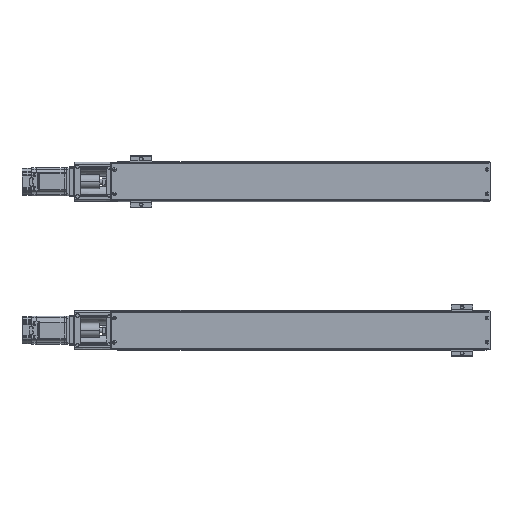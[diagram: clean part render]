
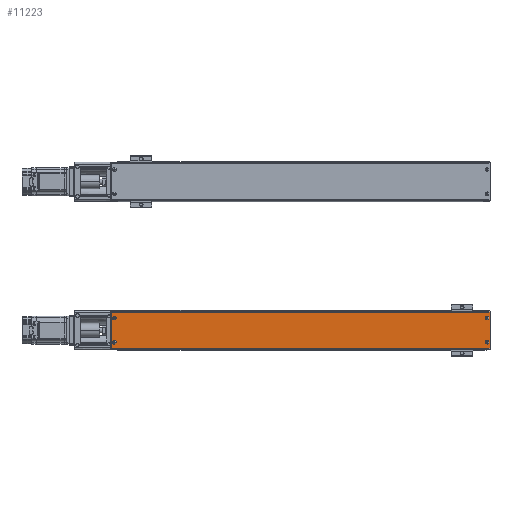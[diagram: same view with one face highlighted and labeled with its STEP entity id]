
A CAD part, top view. The second image highlights one B-rep face of the part: STEP entity #11223.
In plain terms, the highlighted planar face has unit normal (0, 0, 1).
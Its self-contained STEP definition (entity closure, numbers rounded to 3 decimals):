
#11223=ADVANCED_FACE('',(#23324),#23325,.T.);
#23324=FACE_OUTER_BOUND('',#44710,.T.);
#23325=PLANE('',#44711);
#44710=EDGE_LOOP('',(#77880,#77881,#77882,#77883));
#44711=AXIS2_PLACEMENT_3D('',#77884,#77885,#77886);
#77880=ORIENTED_EDGE('',*,*,#100890,.F.);
#77881=ORIENTED_EDGE('',*,*,#102073,.T.);
#77882=ORIENTED_EDGE('',*,*,#102484,.F.);
#77883=ORIENTED_EDGE('',*,*,#98968,.T.);
#77884=CARTESIAN_POINT('',(50.12,-1045.19,-6.33));
#77885=DIRECTION('',(0.0,-0.0,1.0));
#77886=DIRECTION('',(1.0,0.,0.0));
#98968=EDGE_CURVE('',#119065,#119063,#119066,.T.);
#100890=EDGE_CURVE('',#121582,#119063,#121584,.T.);
#102073=EDGE_CURVE('',#121582,#123007,#123009,.T.);
#102484=EDGE_CURVE('',#119065,#123007,#123484,.T.);
#119063=VERTEX_POINT('',#144565);
#119065=VERTEX_POINT('',#144567);
#119066=LINE('',#144568,#144569);
#121582=VERTEX_POINT('',#147983);
#121584=LINE('',#147985,#147986);
#123007=VERTEX_POINT('',#149830);
#123009=LINE('',#149832,#149833);
#123484=LINE('',#150442,#150443);
#144565=CARTESIAN_POINT('',(431.62,-1008.69,-6.33));
#144567=CARTESIAN_POINT('',(431.62,-1081.69,-6.33));
#144568=CARTESIAN_POINT('',(431.62,-1045.19,-6.33));
#144569=VECTOR('',#167492,1.0);
#147983=CARTESIAN_POINT('',(-332.38,-1008.69,-6.33));
#147985=CARTESIAN_POINT('',(50.12,-1008.69,-6.33));
#147986=VECTOR('',#170297,1.0);
#149830=CARTESIAN_POINT('',(-332.38,-1081.69,-6.33));
#149832=CARTESIAN_POINT('',(-332.38,-1045.19,-6.33));
#149833=VECTOR('',#171883,1.0);
#150442=CARTESIAN_POINT('',(50.12,-1081.69,-6.33));
#150443=VECTOR('',#172387,1.0);
#167492=DIRECTION('',(0.,1.0,0.));
#170297=DIRECTION('',(1.0,0.,0.0));
#171883=DIRECTION('',(0.,-1.0,0.));
#172387=DIRECTION('',(-1.0,0.,0.0));
